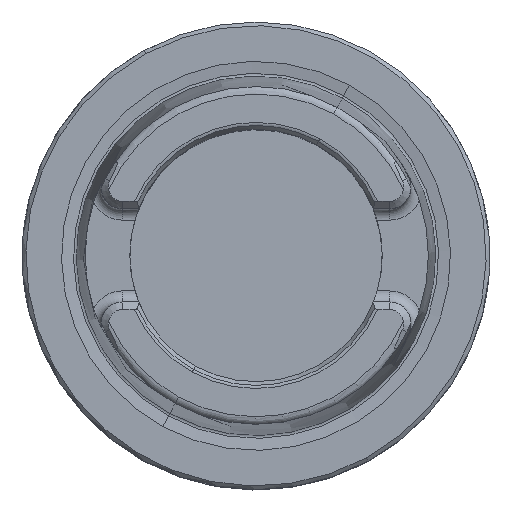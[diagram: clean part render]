
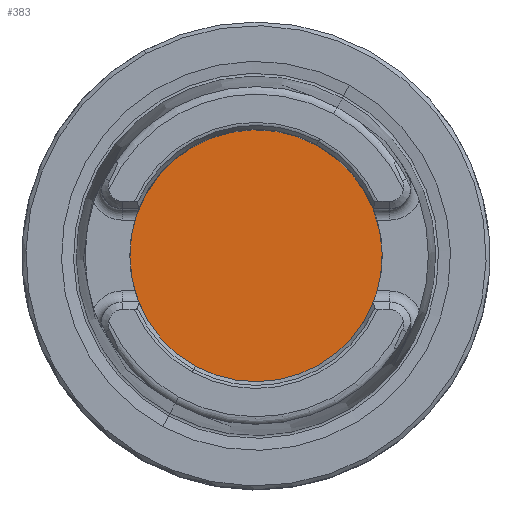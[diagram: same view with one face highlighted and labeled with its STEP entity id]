
A CAD part, top view. The second image highlights one B-rep face of the part: STEP entity #383.
In plain terms, the highlighted planar face has unit normal (0, 0, 1).
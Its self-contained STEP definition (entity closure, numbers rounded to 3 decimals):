
#305=AXIS2_PLACEMENT_3D('Circle Axis2P3D',#303,#304,$) ;
#372=AXIS2_PLACEMENT_3D('Plane Axis2P3D',#369,#370,#371) ;
#376=AXIS2_PLACEMENT_3D('Circle Axis2P3D',#374,#375,$) ;
#300=CARTESIAN_POINT('Vertex',(8.15,14.919,-10.)) ;
#303=CARTESIAN_POINT('Axis2P3D Location',(0.,0.,-10.)) ;
#307=CARTESIAN_POINT('Vertex',(-8.15,-14.919,-10.)) ;
#369=CARTESIAN_POINT('Axis2P3D Location',(0.,-15.75,-10.)) ;
#374=CARTESIAN_POINT('Axis2P3D Location',(0.,0.,-10.)) ;
#304=DIRECTION('Axis2P3D Direction',(0.,0.,-1.)) ;
#370=DIRECTION('Axis2P3D Direction',(0.,0.,-1.)) ;
#371=DIRECTION('Axis2P3D XDirection',(-1.,0.,0.)) ;
#375=DIRECTION('Axis2P3D Direction',(0.,0.,-1.)) ;
#380=ORIENTED_EDGE('',*,*,#378,.T.) ;
#381=ORIENTED_EDGE('',*,*,#309,.T.) ;
#383=ADVANCED_FACE('NO_CUT',(#382),#373,.F.) ;
#306=CIRCLE('generated circle',#305,17.) ;
#377=CIRCLE('generated circle',#376,17.) ;
#309=EDGE_CURVE('',#308,#301,#306,.F.) ;
#378=EDGE_CURVE('',#301,#308,#377,.F.) ;
#379=EDGE_LOOP('',(#380,#381)) ;
#382=FACE_OUTER_BOUND('',#379,.T.) ;
#373=PLANE('',#372) ;
#301=VERTEX_POINT('',#300) ;
#308=VERTEX_POINT('',#307) ;
